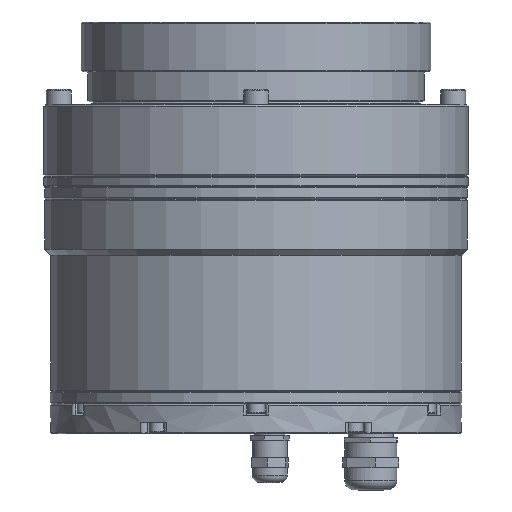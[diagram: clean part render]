
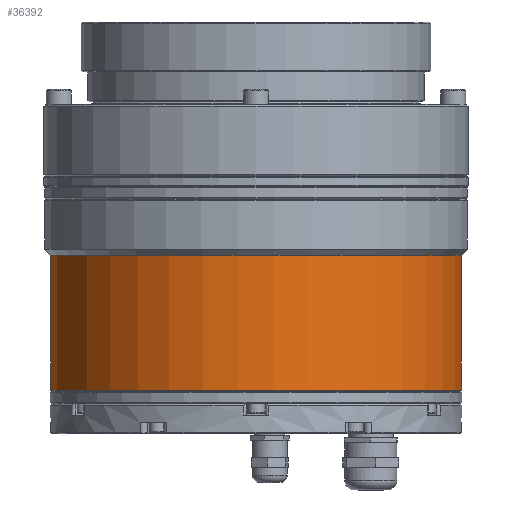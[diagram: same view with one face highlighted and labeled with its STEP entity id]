
A CAD part, front view. The second image highlights one B-rep face of the part: STEP entity #36392.
In plain terms, the highlighted cylindrical face has radius 82.5 mm (diameter 165 mm), a full revolution.
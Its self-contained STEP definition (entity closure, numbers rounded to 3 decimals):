
#33916=CARTESIAN_POINT('',(21.353,79.689,-46.5));
#33917=VERTEX_POINT('',#33916);
#33934=CARTESIAN_POINT('',(0.,0.,-46.5));
#33935=DIRECTION('',(0.259,0.966,0.));
#33936=DIRECTION('',(0.,0.,1.));
#33937=AXIS2_PLACEMENT_3D('',#33934,#33936,#33935);
#33938=CIRCLE('',#33937,82.5);
#33939=EDGE_CURVE('',#33917,#33917,#33938,.T.);
#36368=CARTESIAN_POINT('',(0.,0.,-100.5));
#36369=DIRECTION('',(0.259,0.966,0.));
#36370=DIRECTION('',(0.,0.,1.));
#36371=AXIS2_PLACEMENT_3D('',#36368,#36370,#36369);
#36372=CYLINDRICAL_SURFACE('',#36371,82.5);
#36373=CARTESIAN_POINT('',(21.353,79.689,-100.5));
#36374=VERTEX_POINT('',#36373);
#36375=CARTESIAN_POINT('',(21.353,79.689,-46.5));
#36376=DIRECTION('',(0.,0.,-1.));
#36377=VECTOR('',#36376,54.);
#36378=LINE('',#36375,#36377);
#36379=EDGE_CURVE('',#33917,#36374,#36378,.T.);
#36380=ORIENTED_EDGE('E2868',*,*,#36379,.T.);
#36381=CARTESIAN_POINT('',(0.,0.,-100.5));
#36382=DIRECTION('',(0.259,0.966,0.));
#36383=DIRECTION('',(0.,0.,1.));
#36384=AXIS2_PLACEMENT_3D('',#36381,#36383,#36382);
#36385=CIRCLE('',#36384,82.5);
#36386=EDGE_CURVE('',#36374,#36374,#36385,.T.);
#36387=ORIENTED_EDGE('E2869',*,*,#36386,.T.);
#36388=ORIENTED_EDGE('E2869',*,*,#36379,.F.);
#36389=ORIENTED_EDGE('E2869',*,*,#33939,.F.);
#36390=EDGE_LOOP('',(#36380,#36387,#36388,#36389));
#36391=FACE_OUTER_BOUND('',#36390,.T.);
#36392=ADVANCED_FACE('F1129',(#36391),#36372,.T.);
